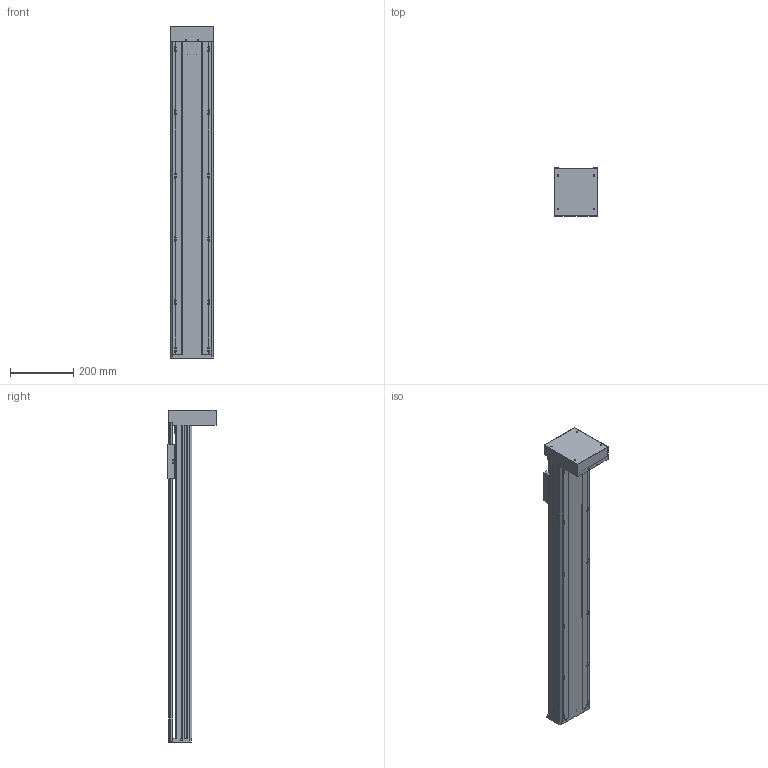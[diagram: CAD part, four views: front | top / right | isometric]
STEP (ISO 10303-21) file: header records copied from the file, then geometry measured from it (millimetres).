
FILE_DESCRIPTION(/* description */ (''),/* implementation_level */ '2;1');
FILE_NAME(/* name */ 'TKA136-FD-800_asm1.stp',/* time_stamp */ '2016-05-07T09:38:46+08:00',/* author */ (''),/* organization */ (''),/* preprocessor_version */ 'ST-DEVELOPER v15',/* originating_system */ 'SIEMENS PLM Software NX 8.5',/* authorisation */ '');
FILE_SCHEMA (('AUTOMOTIVE_DESIGN { 1 0 10303 214 3 1 1 1 }'));
Length unit declared in the file: millimetre
Products named in the file (3): 100-02; 100-01; TKA136-FD-800_asm1
Assembly tree (2 placements, depth 2):
  TKA136-FD-800_asm1
    100-01
    100-02
Bounding box: 136 x 152 x 1050 mm (x, y, z)
Volume: 3310422.7 mm3; surface area: 1285403.7 mm2
Topology: 2 solids, 13 shells, 944 faces, 2655 edges, 1711 vertices
Faces by surface type: cylinder 455, plane 424, cone 65
Full cylindrical faces by diameter (mm): 3 x2, 3.3 x13, 4 x4, 4.2 x8, 4.5 x14, 5 x12, 5.5 x26, 6.6 x16, 8 x12, 10 x9, 10.5 x12, 11 x4, 11.6 x1, 12 x9, 15 x3, 16 x5, 17 x1, 24 x5, 26 x1, 28 x1, 46 x1, 50 x2
Entity records: 31914 total; most frequent: CARTESIAN_POINT 8360, DIRECTION 4930, ORIENTED_EDGE 4658, EDGE_CURVE 2329, AXIS2_PLACEMENT_3D 1867, VERTEX_POINT 1616, EDGE_LOOP 1334, LINE 1196
